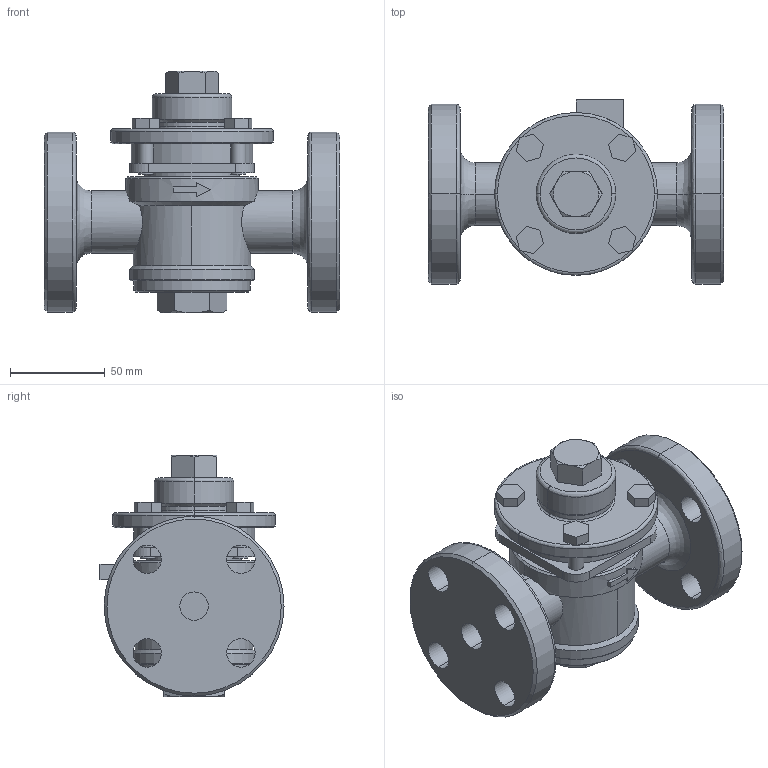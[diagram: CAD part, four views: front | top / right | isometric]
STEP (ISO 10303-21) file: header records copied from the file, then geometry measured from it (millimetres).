
FILE_DESCRIPTION( (''), '2;1');
FILE_NAME ('PC1027.12188.TSD-7F 15A_24072.stp','2025-07-31T15:29:45',(''),(''),'spGate 20.6.3 (****-****-****-****)','','');
FILE_SCHEMA (('AUTOMOTIVE_DESIGN'));
Length unit declared in the file: millimetre
Bounding box: 156 x 97.2 x 127.8 mm (x, y, z)
Volume: 623222.6 mm3; surface area: 88002.1 mm2
Topology: 1 solids, 1 shells, 201 faces, 501 edges, 319 vertices
Faces by surface type: plane 90, cylinder 68, bspline 43
Entity records: 10677 total; most frequent: CARTESIAN_POINT 2110, ORIENTED_EDGE 998, DIRECTION 880, COLOUR_RGB 701, PRESENTATION_STYLE_ASSIGNMENT 701, STYLED_ITEM 701, EDGE_CURVE 499, DRAUGHTING_PRE_DEFINED_CURVE_FONT 499
